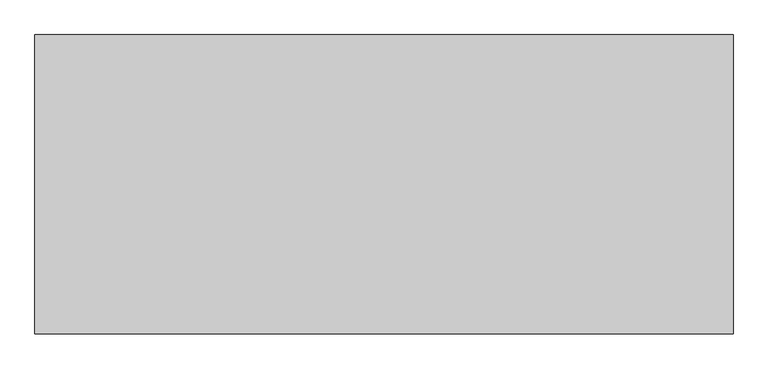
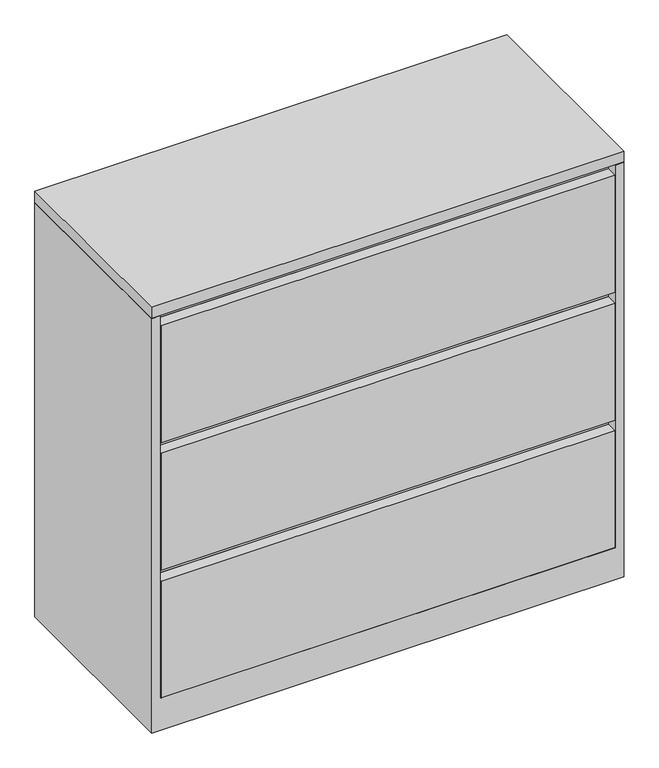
"""IFC4 building model written with IfcOpenShell, lengths in millimetres: furniture geometry, Steelcase - 900 Series - Storage - Lateral File With Drawer - 40H-52H - Flush Steel : 40H x 42W."""

import ifcopenshell
import ifcopenshell.guid

model = None  # the IFC model being written
_history = None  # IfcOwnerHistory: only IFC2X3 demands one
_inside = {}  # id of a spatial element -> (the spatial element, [elements in it])
_under = {}  # id of a project, library or spatial element -> (it, [spatial elements below it])
_declared = {}  # id of a project -> (the project, [libraries it declares])
_typed = {}  # id of a type object -> (the type object, [elements of that type])
_made_of = {}  # id of a material, layer set ... -> (it, [elements and type objects made of it])


def new_model(schema):
    """Start an empty IFC model of exactly this schema.

    Asked for "IFC4X3", IfcOpenShell would pick the latest addendum, in which some entities
    have other attributes; the version numbers below select the first issue.
    IFC2X3 requires an IfcOwnerHistory on every rooted entity: one is made here for all.
    """
    global model, _history
    if schema == "IFC4X3":
        model = ifcopenshell.file(schema_version=(4, 3, 0, 0))
    else:
        model = ifcopenshell.file(schema=schema)
    _inside.clear()
    _under.clear()
    _declared.clear()
    _typed.clear()
    _made_of.clear()
    _history = None
    if model.schema == "IFC2X3":
        org = make("IfcOrganization", Name="unknown")
        user = make(
            "IfcPersonAndOrganization",
            ThePerson=make("IfcPerson", FamilyName="unknown"),
            TheOrganization=org,
        )
        app = make(
            "IfcApplication",
            ApplicationDeveloper=org,
            Version="unknown",
            ApplicationFullName="unknown",
            ApplicationIdentifier="unknown",
        )
        _history = make(
            "IfcOwnerHistory",
            OwningUser=user,
            OwningApplication=app,
            ChangeAction="ADDED",
            CreationDate=0,
        )
    return model


def make(cls, **values):
    """One entity of the class cls with the attributes given. An attribute that is None is left unset."""
    return model.create_entity(
        cls, **{name: value for name, value in values.items() if value is not None}
    )


def rooted(cls, **values):
    """An entity with a GlobalId (a new one), such as an element, a storey or a relation."""
    return make(cls, GlobalId=ifcopenshell.guid.new(), OwnerHistory=_history, **values)


def si_unit(unit_type, name, prefix=None):
    """IfcSIUnit, for example si_unit("LENGTHUNIT", "METRE", prefix="MILLI")."""
    return make("IfcSIUnit", UnitType=unit_type, Prefix=prefix, Name=name)


def assignment(units):
    """IfcUnitAssignment: the units of a project."""
    return None if units is None else make("IfcUnitAssignment", Units=units)


def point(xyz):
    """IfcCartesianPoint."""
    return None if xyz is None else make("IfcCartesianPoint", Coordinates=xyz)


def direction(xyz):
    """IfcDirection."""
    return None if xyz is None else make("IfcDirection", DirectionRatios=xyz)


def frame(location, z_axis=None, x_axis=None):
    """IfcAxis2Placement3D, a coordinate frame: its origin and axes. An axis left out is left unset."""
    return make(
        "IfcAxis2Placement3D",
        Location=point(location),
        Axis=direction(z_axis),
        RefDirection=direction(x_axis),
    )


def origin():
    """The frame at (0, 0, 0) with its axes left unset."""
    return frame((0.0, 0.0, 0.0))


def place(relative_to, where):
    """IfcLocalPlacement: puts the frame where relative to a parent placement (None: the world)."""
    return make(
        "IfcLocalPlacement", PlacementRelTo=relative_to, RelativePlacement=where
    )


def context(
    kind, dimensions, precision=None, world=None, true_north=None, identifier=None
):
    """IfcGeometricRepresentationContext, for example the 3D "Model" context."""
    return make(
        "IfcGeometricRepresentationContext",
        ContextIdentifier=identifier,
        ContextType=kind,
        CoordinateSpaceDimension=dimensions,
        Precision=precision,
        WorldCoordinateSystem=world,
        TrueNorth=true_north,
    )


def project(units=None, contexts=None):
    """IfcProject with its units and contexts."""
    return rooted(
        "IfcProject",
        Name="project",
        RepresentationContexts=contexts,
        UnitsInContext=assignment(units),
    )


def spatial(cls, under=None, at=None, **own):
    """A site, building, storey or space (cls), placed at a placement, below another one or the project."""
    s = rooted(cls, ObjectPlacement=at, **own)
    if under is not None:
        _under.setdefault(under.id(), (under, []))[1].append(s)
    return s


def polyline(points):
    """IfcPolyline through the points."""
    return make("IfcPolyline", Points=[point(p) for p in points])


def outline(outer, holes=None, kind="AREA"):
    """IfcArbitraryClosedProfileDef: a profile drawn as a closed curve; with holes, ...WithVoids."""
    if holes is None:
        return make("IfcArbitraryClosedProfileDef", ProfileType=kind, OuterCurve=outer)
    return make(
        "IfcArbitraryProfileDefWithVoids",
        ProfileType=kind,
        OuterCurve=outer,
        InnerCurves=holes,
    )


def extrude(swept, where, along, depth):
    """IfcExtrudedAreaSolid: the profile swept, set in the frame where, extruded along a direction by depth."""
    return make(
        "IfcExtrudedAreaSolid",
        SweptArea=swept,
        Position=where,
        ExtrudedDirection=direction(along),
        Depth=depth,
    )


def faces_of(points, faces, orient=None, outer=None):
    """IfcFace entities. A face is a list of loops; a loop is a list of indices into points, from 0.

    orient and outer hold one flag for each loop. By default every Orientation is true, the
    first loop of a face is its IfcFaceOuterBound and the others are IfcFaceBound.
    """
    made = []
    for i, loops in enumerate(faces):
        bounds = []
        for j, loop in enumerate(loops):
            is_outer = j == 0 if outer is None else outer[i][j]
            bounds.append(
                make(
                    "IfcFaceOuterBound" if is_outer else "IfcFaceBound",
                    Bound=make("IfcPolyLoop", Polygon=[points[k] for k in loop]),
                    Orientation=True if orient is None else orient[i][j],
                )
            )
        made.append(make("IfcFace", Bounds=bounds))
    return made


def faceted_brep(points, faces, orient=None, outer=None, voids=None):
    """IfcFacetedBrep: a solid bounded by flat faces; with voids (closed shells), ...WithVoids."""
    shared = [point(p) for p in points]
    hull = make("IfcClosedShell", CfsFaces=faces_of(shared, faces, orient, outer))
    if voids is None:
        return make("IfcFacetedBrep", Outer=hull)
    return make(
        "IfcFacetedBrepWithVoids",
        Outer=hull,
        Voids=[
            make(cls, CfsFaces=faces_of(shared, fs, o, b)) for cls, fs, o, b in voids
        ],
    )


def shape(context_of_items, identifier, shape_type, items):
    """IfcShapeRepresentation: the items that make up one representation, for example the "Body"."""
    return make(
        "IfcShapeRepresentation",
        ContextOfItems=context_of_items,
        RepresentationIdentifier=identifier,
        RepresentationType=shape_type,
        Items=items,
    )


def source(mapping_origin, context_of_items, identifier, shape_type, items):
    """IfcRepresentationMap: a shape defined once, which mapped items show again and again."""
    return make(
        "IfcRepresentationMap",
        MappingOrigin=mapping_origin,
        MappedRepresentation=shape(context_of_items, identifier, shape_type, items),
    )


def transform(
    local_origin,
    x_axis=None,
    y_axis=None,
    z_axis=None,
    scale=None,
    scale2=None,
    scale3=None,
    uniform=True,
):
    """IfcCartesianTransformationOperator3D, or its non-uniform kind. x_axis, y_axis, z_axis: its Axis1, 2, 3."""
    if uniform:
        return make(
            "IfcCartesianTransformationOperator3D",
            Axis1=direction(x_axis),
            Axis2=direction(y_axis),
            LocalOrigin=point(local_origin),
            Scale=scale,
            Axis3=direction(z_axis),
        )
    return make(
        "IfcCartesianTransformationOperator3DnonUniform",
        Axis1=direction(x_axis),
        Axis2=direction(y_axis),
        LocalOrigin=point(local_origin),
        Scale=scale,
        Axis3=direction(z_axis),
        Scale2=scale2,
        Scale3=scale3,
    )


def mapped(mapping_source, mapping_target):
    """IfcMappedItem: shows the shape of a source again, moved by a transform."""
    return make(
        "IfcMappedItem", MappingSource=mapping_source, MappingTarget=mapping_target
    )


def made_of(thing, what):
    """Note that an element or type object is made of a material, layer set ...; save() writes the relation."""
    if what is not None:
        _made_of.setdefault(what.id(), (what, []))[1].append(thing)
    return thing


def element(
    cls,
    number,
    at=None,
    inside=None,
    cuts=None,
    type_object=None,
    material=None,
    context=None,
    identifier="Body",
    shape_type=None,
    held_by="IfcProductDefinitionShape",
    body=None,
    shapes=None,
    **own,
):
    """One element of the class cls, such as IfcWall. Its Tag is "e" and its number.

    at: its placement. inside: the storey or other place that contains it. cuts: it is an
    opening in that element (IfcRelVoidsElement). A single representation is given by context,
    identifier, shape_type and body (its items); several are given by shapes. held_by: the class
    of the entity that holds the representations. save() writes the other relations.
    """
    e = rooted(cls, Tag="e%d" % number, ObjectPlacement=at, **own)
    if body is not None:
        shapes = [shape(context, identifier, shape_type, body)]
    if shapes is not None:
        e.Representation = make(held_by, Representations=shapes)
    if inside is not None:
        _inside.setdefault(inside.id(), (inside, []))[1].append(e)
    if cuts is not None:
        rooted(
            "IfcRelVoidsElement", RelatingBuildingElement=cuts, RelatedOpeningElement=e
        )
    if type_object is not None:
        _typed.setdefault(type_object.id(), (type_object, []))[1].append(e)
    return made_of(e, material)


def aggregate(whole, parts):
    """IfcRelAggregates: a whole, such as a stair, and the parts it consists of."""
    return rooted("IfcRelAggregates", RelatingObject=whole, RelatedObjects=parts)


def save(model, path):
    """Write the relations noted so far, then the file.

    IfcRelAggregates (storeys below a building ...), IfcRelContainedInSpatialStructure (elements
    in a storey), IfcRelDefinesByType, IfcRelAssociatesMaterial and IfcRelDeclares: one each for
    every whole, place, type object, material and project.
    """
    for whole, parts in _under.values():
        aggregate(whole, parts)
    for where, things in _inside.values():
        rooted(
            "IfcRelContainedInSpatialStructure",
            RelatedElements=things,
            RelatingStructure=where,
        )
    for kind, things in _typed.values():
        rooted("IfcRelDefinesByType", RelatedObjects=things, RelatingType=kind)
    for what, things in _made_of.values():
        rooted("IfcRelAssociatesMaterial", RelatedObjects=things, RelatingMaterial=what)
    for by, libraries in _declared.values():
        rooted("IfcRelDeclares", RelatingContext=by, RelatedDefinitions=libraries)
    model.write(path)


def furniture_0b2248ee(model_context):
    return source(origin(), model_context, "Body", "SolidModel", [
        extrude(outline(polyline([(1066.8, 0.0), (1066.8, -457.2), (0.0, -457.2), (0.0, 0.0), (1066.8, 0.0)])), frame((0.0, 0.0, 990.5999516), z_axis=(0.0, 0.0, 1.0), x_axis=(1.0, 0.0, 0.0)), (0.0, 0.0, 1.0), 25.4),
        faceted_brep([(1047.4960184, -25.2721219, 989.076), (1047.4960184, -457.2, 989.076), (1066.8, -457.2, 989.076), (1066.8, 0.0, 989.076), (0.0, 0.0, 989.076), (0.0, -457.2, 989.076), (19.3039998, -457.2, 989.076), (19.3039998, -25.2721219, 989.076), (0.0, -457.2, 0.0), (0.0, 0.0, 0.0), (1066.8, 0.0, 0.0), (1066.8, -457.2, 0.0), (1047.4960184, -25.2721219, 381.0), (1047.4960184, -431.800255, 381.0), (1047.4960184, -431.800255, 355.6), (1047.4960184, -25.2721219, 355.6), (1047.4960184, -25.2721219, 76.2), (1047.4960184, -457.2, 76.2), (19.3039998, -457.2, 76.2), (19.3039998, -25.2721219, 76.2), (19.3039998, -25.2721219, 355.6), (19.3039998, -431.800255, 355.6), (19.3039998, -431.800255, 381.0), (19.3039998, -25.2721219, 381.0)], [[[0, 1, 2, 3, 4, 5, 6, 7]], [[8, 9, 10, 11]], [[1, 0, 12, 13, 14, 15, 16, 17]], [[2, 1, 17, 18, 6, 5, 8, 11]], [[3, 2, 11, 10]], [[4, 3, 10, 9]], [[5, 4, 9, 8]], [[7, 6, 18, 19, 20, 21, 22, 23]], [[0, 7, 23, 12]], [[16, 15, 20, 19]], [[18, 17, 16, 19]], [[22, 13, 12, 23]], [[13, 22, 21, 14]], [[14, 21, 20, 15]]]),
        extrude(outline(polyline([(1047.4960184, -25.2721219), (1047.4960184, -431.800255), (19.3039998, -431.800255), (19.3039998, -25.2721219), (1047.4960184, -25.2721219)])), frame((0.0, 0.0, 660.4), z_axis=(0.0, 0.0, 1.0), x_axis=(1.0, 0.0, 0.0)), (0.0, 0.0, 1.0), 25.4),
        extrude(outline(polyline([(1045.9722015, -457.2), (20.8289612, -457.2), (20.8289612, -431.800255), (1045.9722015, -431.800255), (1045.9722015, -457.2)])), frame((0.0, 0.0, 685.8), z_axis=(0.0, 0.0, 1.0), x_axis=(1.0, 0.0, 0.0)), (0.0, 0.0, 1.0), 279.4),
        extrude(outline(polyline([(1047.4960184, -25.2721219), (1047.4960184, -431.800255), (19.3039998, -431.800255), (19.3039998, -25.2721219), (1047.4960184, -25.2721219)])), frame((0.0, 0.0, 965.2), z_axis=(0.0, 0.0, 1.0), x_axis=(1.0, 0.0, 0.0)), (0.0, 0.0, 1.0), 25.4),
        extrude(outline(polyline([(1047.4960184, -25.2721219), (1047.4960184, -431.800255), (20.8289612, -431.800255), (20.8289612, -25.2721219), (1047.4960184, -25.2721219)])), frame((0.0, 0.0, 989.076), z_axis=(0.0, 0.0, 1.0), x_axis=(1.0, 0.0, 0.0)), (0.0, 0.0, 1.0), 1.5239516),
        extrude(outline(polyline([(1045.9722015, -457.2), (20.8289612, -457.2), (20.8289612, -431.800255), (1045.9722015, -431.800255), (1045.9722015, -457.2)])), frame((0.0, 0.0, 76.2), z_axis=(0.0, 0.0, 1.0), x_axis=(1.0, 0.0, 0.0)), (0.0, 0.0, 1.0), 279.4),
        extrude(outline(polyline([(1045.9722015, -457.2), (20.8289612, -457.2), (20.8289612, -431.800255), (1045.9722015, -431.800255), (1045.9722015, -457.2)])), frame((0.0, 0.0, 381.0), z_axis=(0.0, 0.0, 1.0), x_axis=(1.0, 0.0, 0.0)), (0.0, 0.0, 1.0), 279.4),
    ])


if __name__ == "__main__":
    model = new_model("IFC4")
    model_context = context("Model", 3, world=origin())
    ifc_project = project(units=[si_unit("LENGTHUNIT", "METRE", prefix="MILLI")], contexts=[model_context])
    site = spatial("IfcSite", under=ifc_project)
    building = spatial("IfcBuilding", under=site)
    placement = place(None, origin())
    furniture_shape = furniture_0b2248ee(model_context)
    element("IfcFurniture", 1, ObjectType="Steelcase - 900 Series - Storage - Lateral File With Drawer - 40H-52H - Flush Steel : 40H x 42W", at=placement, inside=building, context=model_context, shape_type="MappedRepresentation", body=[
        mapped(furniture_shape, transform((0.0, 0.0, 0.0), x_axis=(1.0, 0.0, 0.0), y_axis=(0.0, 1.0, 0.0), z_axis=(0.0, 0.0, 1.0))),
    ])
    save(model, "model.ifc")
